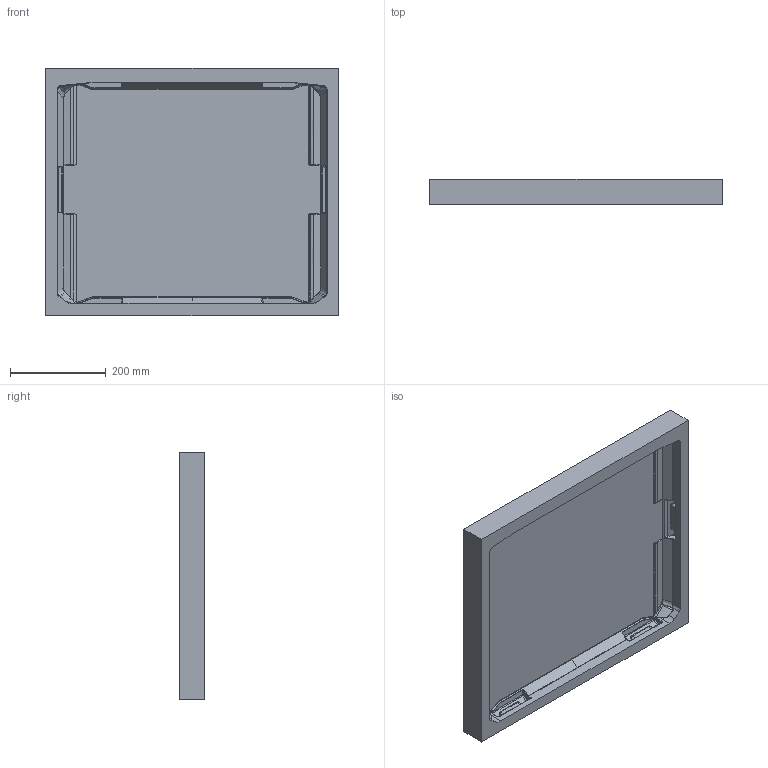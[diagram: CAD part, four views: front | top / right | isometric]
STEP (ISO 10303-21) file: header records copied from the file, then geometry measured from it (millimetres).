
FILE_DESCRIPTION (( 'STEP AP214' ), '1' );
FILE_NAME ('V600 TOP TUB 2-11-2024.STEP', '2024-02-12T00:14:00', ( '' ), ( '' ), 'SwSTEP 2.0', 'SolidWorks 2021', '' );
FILE_SCHEMA (( 'AUTOMOTIVE_DESIGN' ));
Length unit declared in the file: millimetre
Products named in the file (1): V600 TOP TUB 2-11-2024
Bounding box: 609.82 x 52.36 x 517.25 mm (x, y, z)
Volume: 6231505 mm3; surface area: 826893.1 mm2
Topology: 1 solids, 1 shells, 708 faces, 1683 edges, 948 vertices
Faces by surface type: bspline 621, plane 87
Entity records: 27146 total; most frequent: CARTESIAN_POINT 16647, ORIENTED_EDGE 3306, EDGE_CURVE 1653, VERTEX_POINT 948, B_SPLINE_CURVE_WITH_KNOTS 721, EDGE_LOOP 709, FACE_OUTER_BOUND 708, ADVANCED_FACE 708
